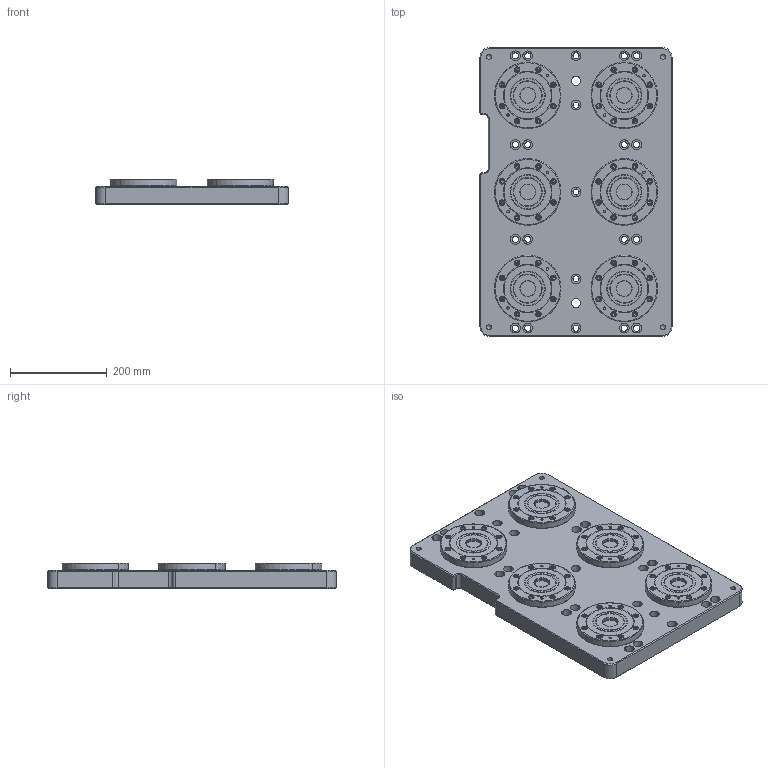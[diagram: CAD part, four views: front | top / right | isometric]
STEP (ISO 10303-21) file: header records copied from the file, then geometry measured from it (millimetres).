
FILE_DESCRIPTION (( 'STEP AP214' ), '1' );
FILE_NAME ('Q6GWB-20.STEP', '2019-03-09T09:19:24', ( '' ), ( '' ), 'SwSTEP 2.0', 'SolidWorks 2018', '' );
FILE_SCHEMA (( 'AUTOMOTIVE_DESIGN' ));
Length unit declared in the file: millimetre
Products named in the file (1): Q6GWB-20
Bounding box: 398 x 598 x 53 mm (x, y, z)
Volume: 10025555.5 mm3; surface area: 1010617 mm2
Topology: 67 solids, 67 shells, 2733 faces, 6056 edges, 3524 vertices
Faces by surface type: plane 1099, cylinder 752, cone 582, torus 300
Entity records: 104477 total; most frequent: DIRECTION 14172, CARTESIAN_POINT 12118, ORIENTED_EDGE 11648, EDGE_CURVE 5824, AXIS2_PLACEMENT_3D 5626, VERTEX_POINT 3524, EDGE_LOOP 3198, LINE 2920
